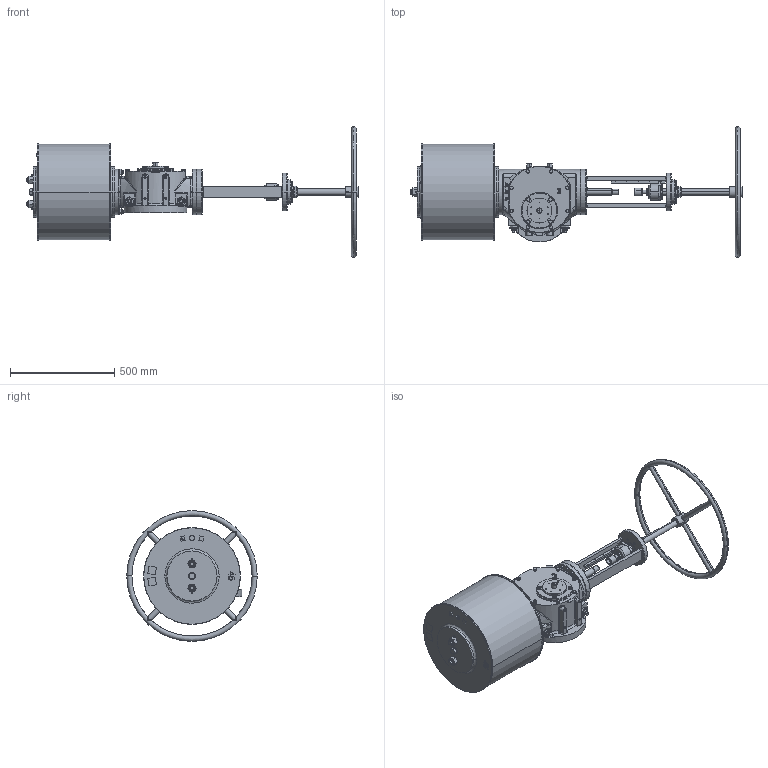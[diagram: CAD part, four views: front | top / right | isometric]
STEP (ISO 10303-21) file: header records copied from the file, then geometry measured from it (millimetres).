
FILE_DESCRIPTION (( 'STEP AP203' ), '1' );
FILE_NAME ('VTS3-450-MSD.STEP', '2023-01-01T09:15:00', ( '' ), ( '' ), 'SwSTEP 2.0', 'SolidWorks 2020', '' );
FILE_SCHEMA (( 'CONFIG_CONTROL_DESIGN' ));
Length unit declared in the file: millimetre
Products named in the file (1): VTS3-450-MSD
Bounding box: 1590.03 x 625 x 625 mm (x, y, z)
Volume: 82257927.9 mm3; surface area: 2418352.4 mm2
Topology: 15 solids, 35 shells, 2646 faces, 6691 edges, 4189 vertices
Faces by surface type: plane 1137, cylinder 798, cone 534, bspline 141, torus 36
Entity records: 96304 total; most frequent: CARTESIAN_POINT 34080, ORIENTED_EDGE 13180, DIRECTION 12841, EDGE_CURVE 6590, AXIS2_PLACEMENT_3D 5029, VERTEX_POINT 4189, EDGE_LOOP 2953, VECTOR 2783
